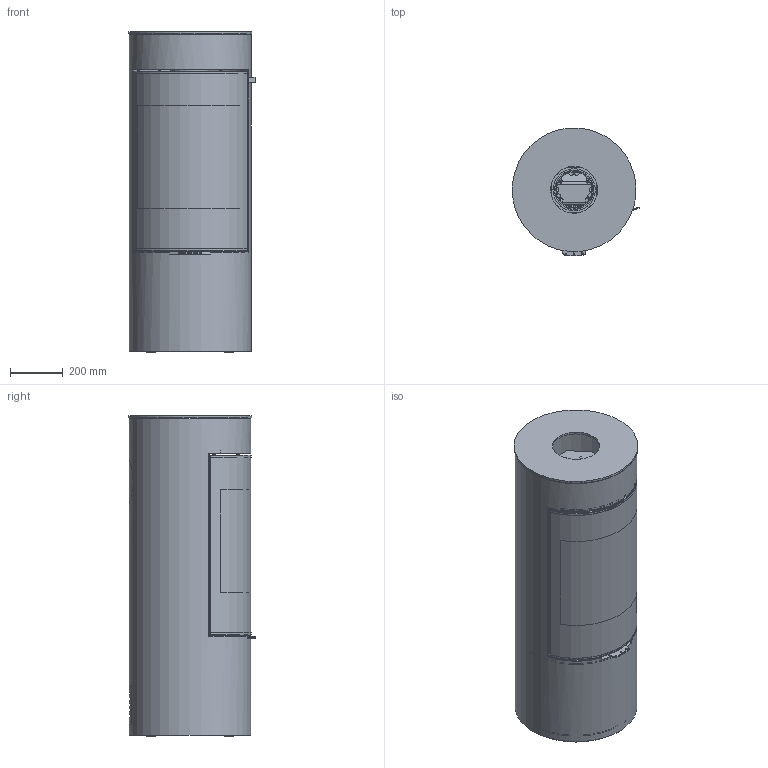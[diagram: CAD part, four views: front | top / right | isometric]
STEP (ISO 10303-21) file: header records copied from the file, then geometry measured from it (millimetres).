
FILE_DESCRIPTION(/* description */ (''),/* implementation_level */ '2;1');
FILE_NAME(/* name */ 'C:\WF\Designs\PROJEKTER\2016 Projekt\Simplified Models\Rais Viva L 120 - 27990_Shrinkwrap_04-03-2020.stp',/* time_stamp */ '2020-03-04T10:06:19+01:00',/* author */ ('ksj'),/* organization */ (''),/* preprocessor_version */ 'ST-DEVELOPER v18',/* originating_system */ 'Autodesk Inventor 2020',/* authorisation */ '');
FILE_SCHEMA (('AUTOMOTIVE_DESIGN { 1 0 10303 214 3 1 1 }'));
Products named in the file (1): Rais Viva L 120 - 27990_Shrinkwrap_04-03-2020
Bounding box: 482.48 x 484.02 x 1218 mm (x, y, z)
Volume: 16107356.7 mm3; surface area: 7515680.3 mm2
Topology: 55 solids, 55 shells, 3057 faces, 8374 edges, 5385 vertices
Faces by surface type: plane 1482, cylinder 1095, bspline 200, torus 138, cone 137, sphere 5
Full cylindrical faces by diameter (mm): 3.2 x1, 4.134 x7, 4.2 x46, 4.917 x3, 5 x6, 5.5 x6, 6 x1, 6.75 x4, 7 x1, 8 x7, 9 x4, 9.5 x1, 10 x4, 10.2 x2, 12 x5, 32 x4, 94 x2, 98 x1, 160 x1, 178 x1, 456 x1, 462 x1, 470 x1
Entity records: 148958 total; most frequent: CARTESIAN_POINT 67454, ORIENTED_EDGE 16656, DIRECTION 16043, EDGE_CURVE 8328, AXIS2_PLACEMENT_3D 5633, VERTEX_POINT 5385, LINE 4777, VECTOR 4777
